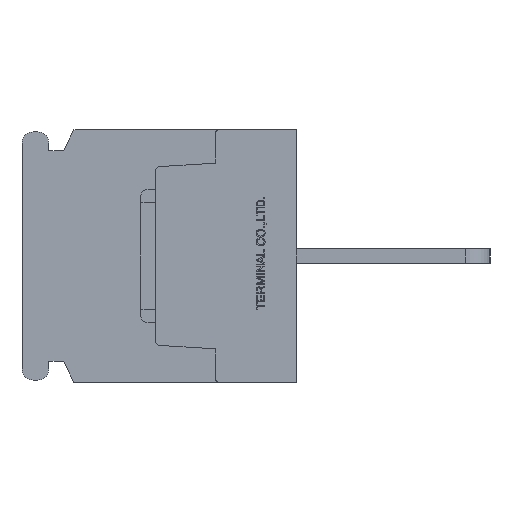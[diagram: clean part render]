
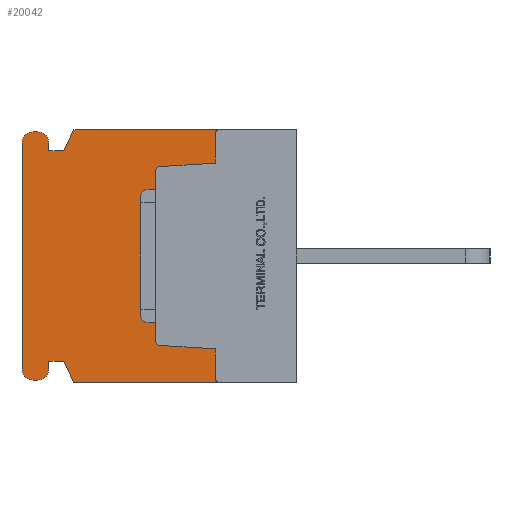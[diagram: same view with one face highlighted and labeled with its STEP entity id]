
A CAD part, left-side view. The second image highlights one B-rep face of the part: STEP entity #20042.
In plain terms, the highlighted planar face has unit normal (-1, 0, 0).
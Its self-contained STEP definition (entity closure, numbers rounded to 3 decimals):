
#1177=CIRCLE('',#21414,0.3);
#1179=CIRCLE('',#21418,0.3);
#1181=CIRCLE('',#21423,0.3);
#1183=CIRCLE('',#21426,0.3);
#1192=CIRCLE('',#21583,0.75);
#1193=CIRCLE('',#21584,0.75);
#1194=CIRCLE('',#21585,0.75);
#1195=CIRCLE('',#21586,0.75);
#2297=VERTEX_POINT('',#29935);
#2298=VERTEX_POINT('',#29937);
#2329=VERTEX_POINT('',#30006);
#2330=VERTEX_POINT('',#30008);
#2683=VERTEX_POINT('',#31241);
#2684=VERTEX_POINT('',#31242);
#2687=VERTEX_POINT('',#31250);
#2701=VERTEX_POINT('',#31280);
#2703=VERTEX_POINT('',#31286);
#2705=VERTEX_POINT('',#31292);
#2707=VERTEX_POINT('',#31298);
#2709=VERTEX_POINT('',#31307);
#3056=VERTEX_POINT('',#32849);
#3057=VERTEX_POINT('',#32851);
#3058=VERTEX_POINT('',#32853);
#3059=VERTEX_POINT('',#32855);
#3060=VERTEX_POINT('',#32857);
#3061=VERTEX_POINT('',#32859);
#3062=VERTEX_POINT('',#32861);
#3063=VERTEX_POINT('',#32863);
#3064=VERTEX_POINT('',#32865);
#3065=VERTEX_POINT('',#32867);
#3066=VERTEX_POINT('',#32869);
#3067=VERTEX_POINT('',#32871);
#4337=VECTOR('',#24064,1.);
#4373=VECTOR('',#24104,1.);
#4726=VECTOR('',#25108,1.);
#4743=VECTOR('',#25132,1.);
#4747=VECTOR('',#25143,1.);
#4750=VECTOR('',#25147,1.);
#4754=VECTOR('',#25164,1.);
#5167=VECTOR('',#25742,1.);
#5168=VECTOR('',#25743,1.);
#5169=VECTOR('',#25744,1.);
#5170=VECTOR('',#25747,1.);
#5171=VECTOR('',#25750,1.);
#5172=VECTOR('',#25753,1.);
#5173=VECTOR('',#25756,1.);
#5174=VECTOR('',#25757,1.);
#5175=VECTOR('',#25758,1.);
#6435=LINE('',#29936,#4337);
#6471=LINE('',#30007,#4373);
#6824=LINE('',#31240,#4726);
#6841=LINE('',#31279,#4743);
#6845=LINE('',#31291,#4747);
#6848=LINE('',#31297,#4750);
#6852=LINE('',#31312,#4754);
#7265=LINE('',#32848,#5167);
#7266=LINE('',#32850,#5168);
#7267=LINE('',#32852,#5169);
#7268=LINE('',#32856,#5170);
#7269=LINE('',#32860,#5171);
#7270=LINE('',#32864,#5172);
#7271=LINE('',#32868,#5173);
#7272=LINE('',#32870,#5174);
#7273=LINE('',#32872,#5175);
#8994=EDGE_CURVE('',#2297,#2298,#6435,.T.);
#9031=EDGE_CURVE('',#2329,#2330,#6471,.T.);
#9583=EDGE_CURVE('',#2683,#2684,#6824,.T.);
#9587=EDGE_CURVE('',#2687,#2683,#1177,.T.);
#9602=EDGE_CURVE('',#2701,#2687,#6841,.T.);
#9605=EDGE_CURVE('',#2703,#2701,#1179,.T.);
#9608=EDGE_CURVE('',#2705,#2703,#6845,.T.);
#9611=EDGE_CURVE('',#2707,#2705,#6848,.T.);
#9614=EDGE_CURVE('',#2330,#2707,#1181,.T.);
#9616=EDGE_CURVE('',#2709,#2297,#1183,.T.);
#9619=EDGE_CURVE('',#2684,#2709,#6852,.T.);
#10143=EDGE_CURVE('',#3056,#2329,#7265,.T.);
#10144=EDGE_CURVE('',#3057,#3056,#7266,.T.);
#10145=EDGE_CURVE('',#3058,#3057,#7267,.T.);
#10146=EDGE_CURVE('',#3059,#3058,#1192,.T.);
#10147=EDGE_CURVE('',#3060,#3059,#7268,.T.);
#10148=EDGE_CURVE('',#3061,#3060,#1193,.T.);
#10149=EDGE_CURVE('',#3062,#3061,#7269,.T.);
#10150=EDGE_CURVE('',#3063,#3062,#1194,.T.);
#10151=EDGE_CURVE('',#3064,#3063,#7270,.T.);
#10152=EDGE_CURVE('',#3065,#3064,#1195,.T.);
#10153=EDGE_CURVE('',#3066,#3065,#7271,.T.);
#10154=EDGE_CURVE('',#3067,#3066,#7272,.T.);
#10155=EDGE_CURVE('',#2298,#3067,#7273,.T.);
#15790=ORIENTED_EDGE('',*,*,#9614,.F.);
#15791=ORIENTED_EDGE('',*,*,#9031,.F.);
#15792=ORIENTED_EDGE('',*,*,#10143,.F.);
#15793=ORIENTED_EDGE('',*,*,#10144,.F.);
#15794=ORIENTED_EDGE('',*,*,#10145,.F.);
#15795=ORIENTED_EDGE('',*,*,#10146,.F.);
#15796=ORIENTED_EDGE('',*,*,#10147,.F.);
#15797=ORIENTED_EDGE('',*,*,#10148,.F.);
#15798=ORIENTED_EDGE('',*,*,#10149,.F.);
#15799=ORIENTED_EDGE('',*,*,#10150,.F.);
#15800=ORIENTED_EDGE('',*,*,#10151,.F.);
#15801=ORIENTED_EDGE('',*,*,#10152,.F.);
#15802=ORIENTED_EDGE('',*,*,#10153,.F.);
#15803=ORIENTED_EDGE('',*,*,#10154,.F.);
#15804=ORIENTED_EDGE('',*,*,#10155,.F.);
#15805=ORIENTED_EDGE('',*,*,#8994,.F.);
#15806=ORIENTED_EDGE('',*,*,#9616,.F.);
#15807=ORIENTED_EDGE('',*,*,#9619,.F.);
#15808=ORIENTED_EDGE('',*,*,#9583,.F.);
#15809=ORIENTED_EDGE('',*,*,#9587,.F.);
#15810=ORIENTED_EDGE('',*,*,#9602,.F.);
#15811=ORIENTED_EDGE('',*,*,#9605,.F.);
#15812=ORIENTED_EDGE('',*,*,#9608,.F.);
#15813=ORIENTED_EDGE('',*,*,#9611,.F.);
#17573=EDGE_LOOP('',(#15790,#15791,#15792,#15793,#15794,#15795,#15796,#15797,
#15798,#15799,#15800,#15801,#15802,#15803,#15804,#15805,#15806,#15807,#15808,
#15809,#15810,#15811,#15812,#15813));
#18881=FACE_BOUND('',#17573,.T.);
#20042=ADVANCED_FACE('',(#18881),#34074,.F.);
#21414=AXIS2_PLACEMENT_3D('',#31249,#25114,#25115);
#21418=AXIS2_PLACEMENT_3D('',#31285,#25137,#25138);
#21423=AXIS2_PLACEMENT_3D('',#31303,#25152,#25153);
#21426=AXIS2_PLACEMENT_3D('',#31306,#25158,#25159);
#21582=AXIS2_PLACEMENT_3D('',#32847,#25741,$);
#21583=AXIS2_PLACEMENT_3D('',#32854,#25745,#25746);
#21584=AXIS2_PLACEMENT_3D('',#32858,#25748,#25749);
#21585=AXIS2_PLACEMENT_3D('',#32862,#25751,#25752);
#21586=AXIS2_PLACEMENT_3D('',#32866,#25754,#25755);
#24064=DIRECTION('',(0.,1.,0.));
#24104=DIRECTION('',(0.,-1.,0.));
#25108=DIRECTION('',(0.,-0.998,-0.062));
#25114=DIRECTION('',(-1.,0.,0.));
#25115=DIRECTION('',(0.,0.,-0.3));
#25132=DIRECTION('',(0.,0.,-1.));
#25137=DIRECTION('',(-1.,0.,0.));
#25138=DIRECTION('',(0.,0.,-0.3));
#25143=DIRECTION('',(0.,0.998,-0.062));
#25147=DIRECTION('',(0.,0.,-1.));
#25152=DIRECTION('',(-1.,0.,0.));
#25153=DIRECTION('',(0.,0.,-0.3));
#25158=DIRECTION('',(-1.,0.,0.));
#25159=DIRECTION('',(0.,0.,-0.3));
#25164=DIRECTION('',(0.,0.,-1.));
#25741=DIRECTION('',(1.,0.,0.));
#25742=DIRECTION('',(0.,-0.447,0.894));
#25743=DIRECTION('',(0.,-1.,0.));
#25744=DIRECTION('',(0.,0.,-1.));
#25745=DIRECTION('',(1.,0.,0.));
#25746=DIRECTION('',(0.,0.,-0.75));
#25747=DIRECTION('',(0.,-1.,0.));
#25748=DIRECTION('',(1.,0.,0.));
#25749=DIRECTION('',(0.,0.,-0.75));
#25750=DIRECTION('',(0.,0.,1.));
#25751=DIRECTION('',(1.,0.,0.));
#25752=DIRECTION('',(0.,0.,-0.75));
#25753=DIRECTION('',(0.,1.,0.));
#25754=DIRECTION('',(1.,0.,0.));
#25755=DIRECTION('',(0.,0.,-0.75));
#25756=DIRECTION('',(0.,0.,-1.));
#25757=DIRECTION('',(0.,1.,0.));
#25758=DIRECTION('',(0.,0.447,0.894));
#29935=CARTESIAN_POINT('',(0.,5.2,-8.5));
#29936=CARTESIAN_POINT('',(0.,0.,-8.5));
#29937=CARTESIAN_POINT('',(0.,15.,-8.5));
#30006=CARTESIAN_POINT('',(0.,15.,8.5));
#30007=CARTESIAN_POINT('',(0.,15.,8.5));
#30008=CARTESIAN_POINT('',(0.,5.2,8.5));
#31240=CARTESIAN_POINT('',(0.,9.219,-6.018));
#31241=CARTESIAN_POINT('',(0.,9.219,-6.018));
#31242=CARTESIAN_POINT('',(0.,5.5,-6.25));
#31249=CARTESIAN_POINT('',(0.,9.2,-5.718));
#31250=CARTESIAN_POINT('',(0.,9.5,-5.718));
#31279=CARTESIAN_POINT('',(0.,9.5,5.718));
#31280=CARTESIAN_POINT('',(0.,9.5,5.718));
#31285=CARTESIAN_POINT('',(0.,9.2,5.718));
#31286=CARTESIAN_POINT('',(0.,9.219,6.018));
#31291=CARTESIAN_POINT('',(0.,5.5,6.25));
#31292=CARTESIAN_POINT('',(0.,5.5,6.25));
#31297=CARTESIAN_POINT('',(0.,5.5,8.2));
#31298=CARTESIAN_POINT('',(0.,5.5,8.2));
#31303=CARTESIAN_POINT('',(0.,5.2,8.2));
#31306=CARTESIAN_POINT('',(0.,5.2,-8.2));
#31307=CARTESIAN_POINT('',(0.,5.5,-8.2));
#31312=CARTESIAN_POINT('',(0.,5.5,-6.25));
#32847=CARTESIAN_POINT('',(0.,9.463,0.));
#32848=CARTESIAN_POINT('',(0.,15.7,7.1));
#32849=CARTESIAN_POINT('',(0.,15.7,7.1));
#32850=CARTESIAN_POINT('',(0.,16.7,7.1));
#32851=CARTESIAN_POINT('',(0.,16.7,7.1));
#32852=CARTESIAN_POINT('',(0.,16.7,7.6));
#32853=CARTESIAN_POINT('',(0.,16.7,7.6));
#32854=CARTESIAN_POINT('',(0.,17.45,7.6));
#32855=CARTESIAN_POINT('',(0.,17.45,8.35));
#32856=CARTESIAN_POINT('',(0.,17.75,8.35));
#32857=CARTESIAN_POINT('',(0.,17.75,8.35));
#32858=CARTESIAN_POINT('',(0.,17.75,7.6));
#32859=CARTESIAN_POINT('',(0.,18.5,7.6));
#32860=CARTESIAN_POINT('',(0.,18.5,-7.6));
#32861=CARTESIAN_POINT('',(0.,18.5,-7.6));
#32862=CARTESIAN_POINT('',(0.,17.75,-7.6));
#32863=CARTESIAN_POINT('',(0.,17.75,-8.35));
#32864=CARTESIAN_POINT('',(0.,17.45,-8.35));
#32865=CARTESIAN_POINT('',(0.,17.45,-8.35));
#32866=CARTESIAN_POINT('',(0.,17.45,-7.6));
#32867=CARTESIAN_POINT('',(0.,16.7,-7.6));
#32868=CARTESIAN_POINT('',(0.,16.7,-7.1));
#32869=CARTESIAN_POINT('',(0.,16.7,-7.1));
#32870=CARTESIAN_POINT('',(0.,15.7,-7.1));
#32871=CARTESIAN_POINT('',(0.,15.7,-7.1));
#32872=CARTESIAN_POINT('',(0.,15.,-8.5));
#34074=PLANE('',#21582);
